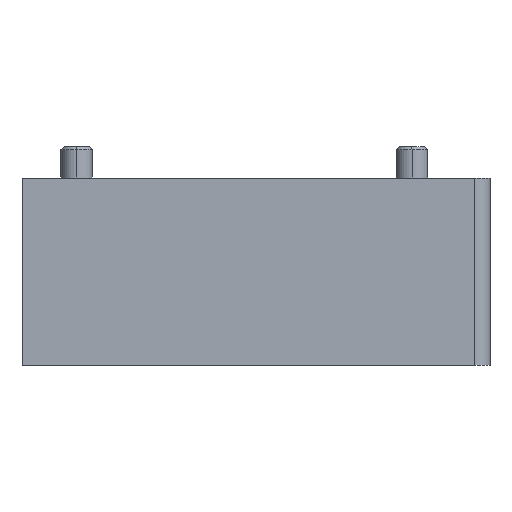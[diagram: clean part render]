
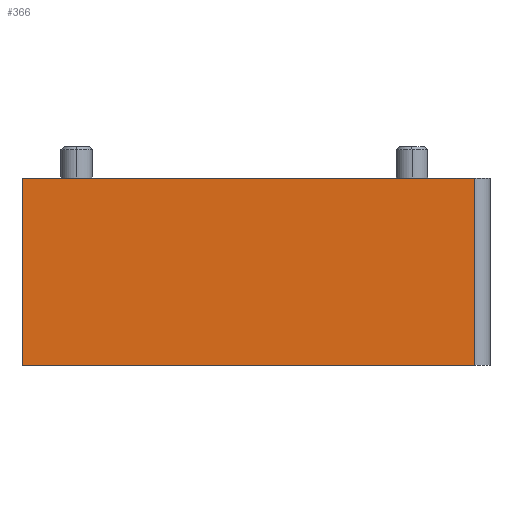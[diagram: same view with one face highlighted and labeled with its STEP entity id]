
A CAD part, left-side view. The second image highlights one B-rep face of the part: STEP entity #366.
In plain terms, the highlighted planar face has unit normal (-1, 0, 0).
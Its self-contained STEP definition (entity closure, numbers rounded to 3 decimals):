
#57=CARTESIAN_POINT('Line Origine',(-10.5,2.5,12.)) ;
#61=CARTESIAN_POINT('Vertex',(-10.5,-12.,12.)) ;
#63=CARTESIAN_POINT('Vertex',(-10.5,17.,12.)) ;
#336=CARTESIAN_POINT('Axis2P3D Location',(-10.5,-12.,0.)) ;
#341=CARTESIAN_POINT('Line Origine',(-10.5,2.5,0.)) ;
#345=CARTESIAN_POINT('Vertex',(-10.5,-12.,0.)) ;
#347=CARTESIAN_POINT('Vertex',(-10.5,17.,0.)) ;
#350=CARTESIAN_POINT('Line Origine',(-10.5,-12.,6.)) ;
#355=CARTESIAN_POINT('Line Origine',(-10.5,17.,6.)) ;
#58=DIRECTION('Vector Direction',(0.,1.,0.)) ;
#337=DIRECTION('Axis2P3D Direction',(1.,0.,0.)) ;
#338=DIRECTION('Axis2P3D XDirection',(0.,1.,0.)) ;
#342=DIRECTION('Vector Direction',(0.,1.,0.)) ;
#351=DIRECTION('Vector Direction',(0.,0.,-1.)) ;
#356=DIRECTION('Vector Direction',(0.,0.,1.)) ;
#339=AXIS2_PLACEMENT_3D('Plane Axis2P3D',#336,#337,#338) ;
#361=ORIENTED_EDGE('',*,*,#349,.F.) ;
#362=ORIENTED_EDGE('',*,*,#354,.F.) ;
#363=ORIENTED_EDGE('',*,*,#65,.T.) ;
#364=ORIENTED_EDGE('',*,*,#359,.F.) ;
#59=VECTOR('Line Direction',#58,1.) ;
#343=VECTOR('Line Direction',#342,1.) ;
#352=VECTOR('Line Direction',#351,1.) ;
#357=VECTOR('Line Direction',#356,1.) ;
#366=ADVANCED_FACE('\X2\96F64EF651E04F554F53\X0\',(#365),#340,.F.) ;
#65=EDGE_CURVE('',#62,#64,#60,.T.) ;
#349=EDGE_CURVE('',#346,#348,#344,.T.) ;
#354=EDGE_CURVE('',#62,#346,#353,.T.) ;
#359=EDGE_CURVE('',#348,#64,#358,.T.) ;
#360=EDGE_LOOP('',(#361,#362,#363,#364)) ;
#365=FACE_OUTER_BOUND('',#360,.T.) ;
#60=LINE('Line',#57,#59) ;
#344=LINE('Line',#341,#343) ;
#353=LINE('Line',#350,#352) ;
#358=LINE('Line',#355,#357) ;
#340=PLANE('Plane',#339) ;
#62=VERTEX_POINT('',#61) ;
#64=VERTEX_POINT('',#63) ;
#346=VERTEX_POINT('',#345) ;
#348=VERTEX_POINT('',#347) ;
